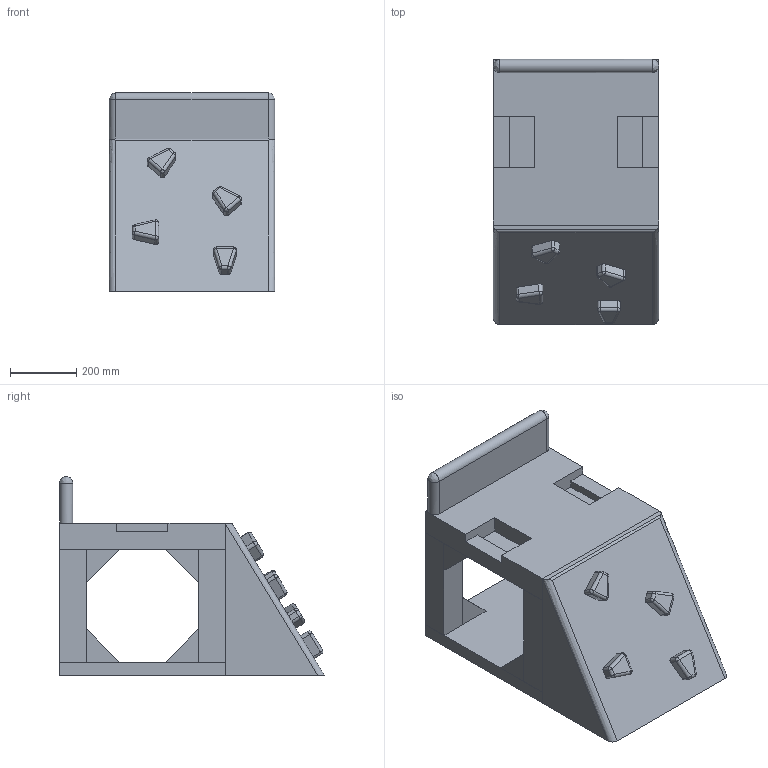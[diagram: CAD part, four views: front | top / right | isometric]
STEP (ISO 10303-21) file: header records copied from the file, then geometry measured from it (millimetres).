
FILE_DESCRIPTION(/* description */ (''),/* implementation_level */ '2;1');
FILE_NAME(/* name */ 'kinoshita_baobabland_k152',/* time_stamp */ '2026-04-13T20:46:46+09:00',/* author */ (''),/* organization */ (''),/* preprocessor_version */ 'ST-DEVELOPER v16.5',/* originating_system */ '',/* authorisation */ '');
FILE_SCHEMA (('AUTOMOTIVE_DESIGN'));
Length unit declared in the file: millimetre
Products named in the file (1): Document
Bounding box: 500 x 800 x 599.96 mm (x, y, z)
Volume: 79478933 mm3; surface area: 3023873 mm2
Topology: 18 solids, 18 shells, 167 faces, 359 edges, 210 vertices
Faces by surface type: plane 111, bspline 56
Entity records: 4217 total; most frequent: CARTESIAN_POINT 1813, ORIENTED_EDGE 682, EDGE_CURVE 341, B_SPLINE_CURVE_WITH_KNOTS 261, VERTEX_POINT 210, ADVANCED_FACE 167, FACE_OUTER_BOUND 167, EDGE_LOOP 167
